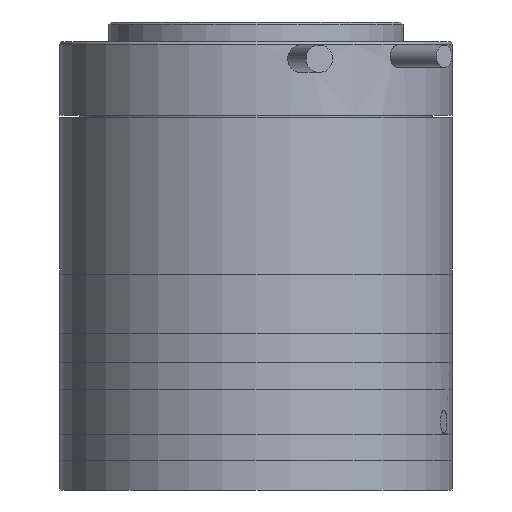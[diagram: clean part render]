
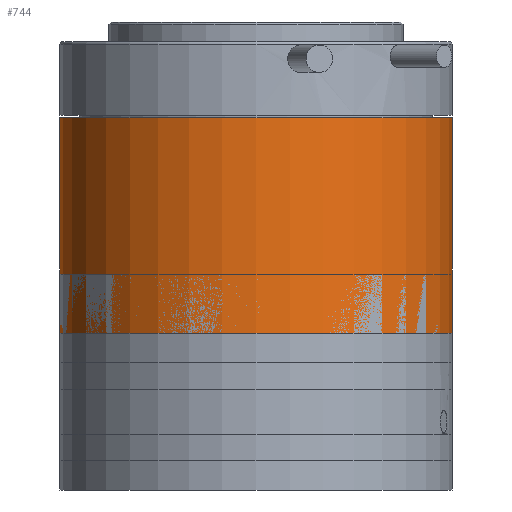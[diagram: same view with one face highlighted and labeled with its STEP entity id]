
A CAD part, left-side view. The second image highlights one B-rep face of the part: STEP entity #744.
In plain terms, the highlighted cylindrical face has radius 40 mm (diameter 80 mm), a full revolution.
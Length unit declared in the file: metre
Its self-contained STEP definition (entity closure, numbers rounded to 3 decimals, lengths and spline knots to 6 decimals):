
#744 = ADVANCED_FACE( '', ( #1085, #1086 ), #1087, .T. );
#1085 = FACE_OUTER_BOUND( '', #1615, .T. );
#1086 = FACE_OUTER_BOUND( '', #1616, .T. );
#1087 = CYLINDRICAL_SURFACE( '', #1617, 0.04 );
#1615 = EDGE_LOOP( '', ( #2323 ) );
#1616 = EDGE_LOOP( '', ( #2324 ) );
#1617 = AXIS2_PLACEMENT_3D( '', #2325, #2326, #2327 );
#2323 = ORIENTED_EDGE( '', *, *, #2918, .T. );
#2324 = ORIENTED_EDGE( '', *, *, #2932, .F. );
#2325 = CARTESIAN_POINT( '', ( 0., 0., 0.054 ) );
#2326 = DIRECTION( '', ( 0., 0., 1. ) );
#2327 = DIRECTION( '', ( -1., 0., 0. ) );
#2918 = EDGE_CURVE( '', #3294, #3294, #3295, .F. );
#2932 = EDGE_CURVE( '', #3319, #3319, #3320, .T. );
#3294 = VERTEX_POINT( '', #3700 );
#3295 = CIRCLE( '', #3701, 0.04 );
#3319 = VERTEX_POINT( '', #3728 );
#3320 = CIRCLE( '', #3729, 0.04 );
#3700 = CARTESIAN_POINT( '', ( 0.04, 0., -0.0005 ) );
#3701 = AXIS2_PLACEMENT_3D( '', #4452, #4453, #4454 );
#3728 = CARTESIAN_POINT( '', ( -0.04, 0., -0.0445 ) );
#3729 = AXIS2_PLACEMENT_3D( '', #4485, #4486, #4487 );
#4452 = CARTESIAN_POINT( '', ( 0., 0., -0.0005 ) );
#4453 = DIRECTION( '', ( 0., 0., 1. ) );
#4454 = DIRECTION( '', ( 1., 0., 0. ) );
#4485 = CARTESIAN_POINT( '', ( 0., 0., -0.0445 ) );
#4486 = DIRECTION( '', ( 0., 0., -1. ) );
#4487 = DIRECTION( '', ( -1., 0., 0. ) );
